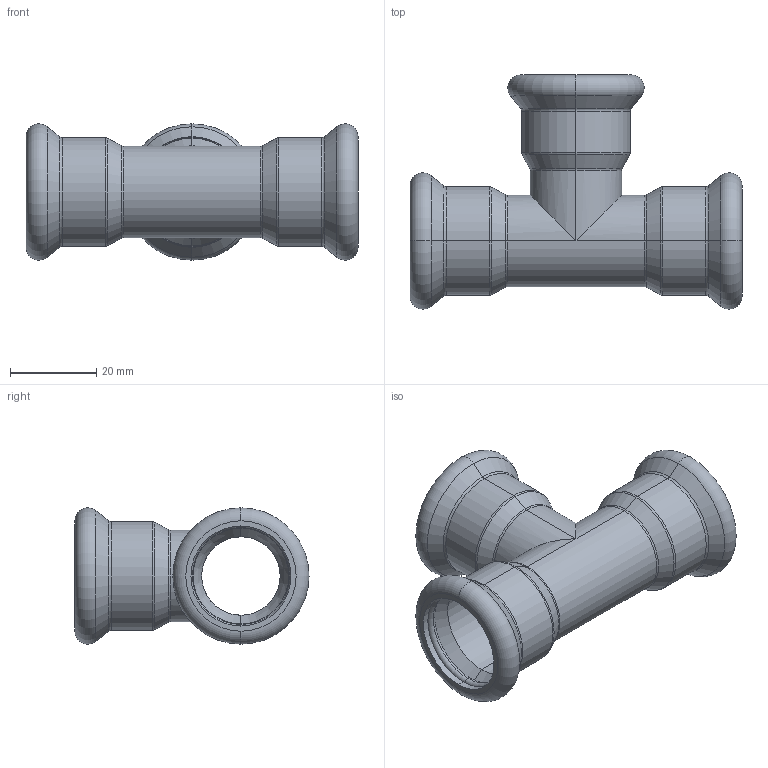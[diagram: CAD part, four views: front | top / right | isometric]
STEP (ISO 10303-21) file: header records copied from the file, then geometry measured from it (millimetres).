
FILE_DESCRIPTION (( 'STEP AP214' ), '1' );
FILE_NAME ('T220000.STEP', '2025-08-17T12:53:49', ( '' ), ( '' ), 'SwSTEP 2.0', 'SolidWorks 2020', '' );
FILE_SCHEMA (( 'AUTOMOTIVE_DESIGN' ));
Length unit declared in the file: millimetre
Products named in the file (1): T220000
Bounding box: 77 x 54.3 x 31.6 mm (x, y, z)
Volume: 13067.4 mm3; surface area: 18273.2 mm2
Topology: 4 solids, 4 shells, 100 faces, 202 edges, 106 vertices
Faces by surface type: torus 42, cylinder 28, cone 24, plane 6
Entity records: 3763 total; most frequent: DIRECTION 544, CARTESIAN_POINT 421, ORIENTED_EDGE 404, AXIS2_PLACEMENT_3D 245, EDGE_CURVE 202, CIRCLE 144, UNCERTAINTY_MEASURE_WITH_UNIT 106, VERTEX_POINT 106
